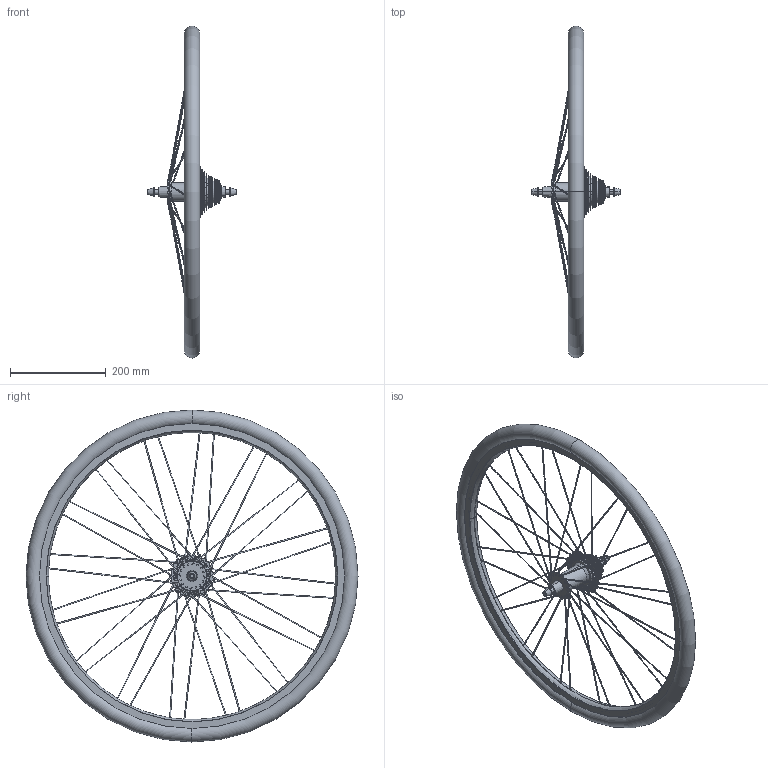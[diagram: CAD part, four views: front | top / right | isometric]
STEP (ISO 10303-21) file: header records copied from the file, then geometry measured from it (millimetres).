
FILE_DESCRIPTION (( 'STEP AP203' ), '1' );
FILE_NAME ('Rear Wheel Assy.STEP', '2021-02-01T05:34:21', ( '' ), ( '' ), 'SwSTEP 2.0', 'SolidWorks 2021', '' );
FILE_SCHEMA (( 'CONFIG_CONTROL_DESIGN' ));
Length unit declared in the file: millimetre
Products named in the file (4): Rear Cassette; Rear Wheel Assy; Cassette Body; Dished Rear Wheel
Assembly tree (3 placements, depth 2):
  Rear Wheel Assy
    Dished Rear Wheel
    Cassette Body
    Rear Cassette
Bounding box: 186 x 693.57 x 693.57 mm (x, y, z)
Volume: 777254.6 mm3; surface area: 704506.6 mm2
Topology: 12 solids, 14 shells, 3553 faces, 10380 edges, 6831 vertices
Faces by surface type: cylinder 2058, plane 959, cone 349, bspline 129, torus 58
Entity records: 125597 total; most frequent: CARTESIAN_POINT 31550, ORIENTED_EDGE 20760, DIRECTION 19394, EDGE_CURVE 10380, AXIS2_PLACEMENT_3D 7698, VERTEX_POINT 6831, CIRCLE 4268, LINE 3998
